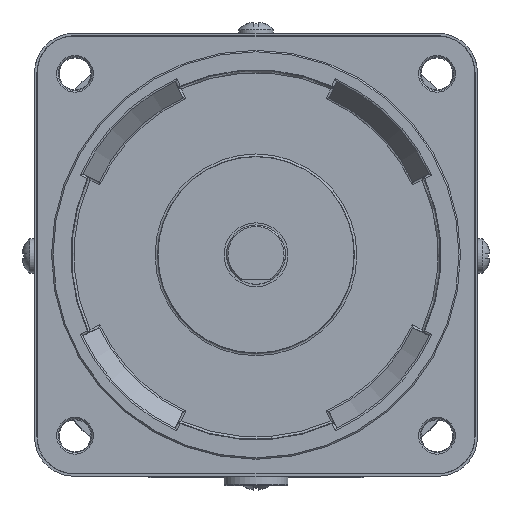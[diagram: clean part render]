
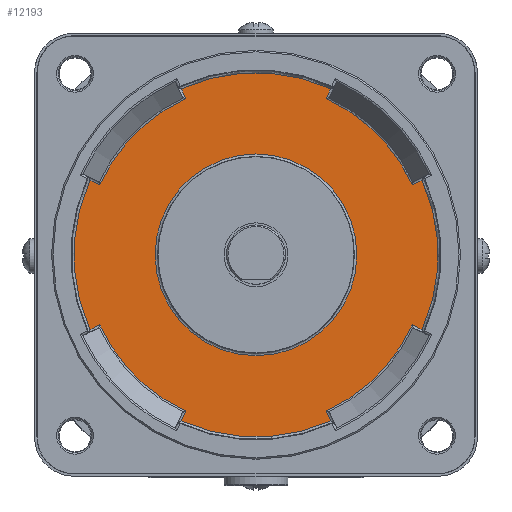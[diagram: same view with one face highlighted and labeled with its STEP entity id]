
A CAD part, top view. The second image highlights one B-rep face of the part: STEP entity #12193.
In plain terms, the highlighted planar face has unit normal (0, 0, 1).
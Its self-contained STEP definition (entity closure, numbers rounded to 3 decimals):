
#8 = DIRECTION ( 'NONE',  ( 0., 0., 1. ) ) ;
#231 = VERTEX_POINT ( 'NONE', #5247 ) ;
#313 = CARTESIAN_POINT ( 'NONE',  ( -33.753, -15.188, -2.5 ) ) ;
#380 = EDGE_CURVE ( 'NONE', #12236, #7344, #490, .T. ) ;
#385 = ORIENTED_EDGE ( 'NONE', *, *, #4641, .T. ) ;
#388 = VECTOR ( 'NONE', #6563, 1000. ) ;
#490 = LINE ( 'NONE', #6357, #388 ) ;
#516 = DIRECTION ( 'NONE',  ( -0.906, 0.423, 0. ) ) ;
#593 = DIRECTION ( 'NONE',  ( 1., 0., 0. ) ) ;
#696 = FACE_OUTER_BOUND ( 'NONE', #8494, .T. ) ;
#700 = VERTEX_POINT ( 'NONE', #4110 ) ;
#810 = ORIENTED_EDGE ( 'NONE', *, *, #3747, .T. ) ;
#873 = ORIENTED_EDGE ( 'NONE', *, *, #6454, .T. ) ;
#910 = CARTESIAN_POINT ( 'NONE',  ( -14.242, 31.725, -2.5 ) ) ;
#935 = CARTESIAN_POINT ( 'NONE',  ( 0., 0., -2.5 ) ) ;
#952 = DIRECTION ( 'NONE',  ( 1., 0., 0. ) ) ;
#1113 = CIRCLE ( 'NONE', #10386, 20.491 ) ;
#1242 = CARTESIAN_POINT ( 'NONE',  ( 0., 0., -2.5 ) ) ;
#1409 = ORIENTED_EDGE ( 'NONE', *, *, #5011, .T. ) ;
#1417 = CARTESIAN_POINT ( 'NONE',  ( -0.453, 0.211, -2.5 ) ) ;
#1424 = VECTOR ( 'NONE', #12307, 1000. ) ;
#1473 = VERTEX_POINT ( 'NONE', #313 ) ;
#1562 = LINE ( 'NONE', #1417, #3762 ) ;
#1624 = DIRECTION ( 'NONE',  ( 0.906, -0.423, 0. ) ) ;
#1697 = PLANE ( 'NONE',  #6767 ) ;
#1743 = ORIENTED_EDGE ( 'NONE', *, *, #9905, .T. ) ;
#1972 = VECTOR ( 'NONE', #1624, 1000. ) ;
#2042 = AXIS2_PLACEMENT_3D ( 'NONE', #4200, #5190, #3417 ) ;
#2053 = ORIENTED_EDGE ( 'NONE', *, *, #5500, .T. ) ;
#2141 = VECTOR ( 'NONE', #3409, 1000. ) ;
#2276 = CARTESIAN_POINT ( 'NONE',  ( 14.338, -31.932, -2.5 ) ) ;
#2347 = LINE ( 'NONE', #2276, #1424 ) ;
#2522 = CARTESIAN_POINT ( 'NONE',  ( 15.188, -33.753, -2.5 ) ) ;
#2598 = ORIENTED_EDGE ( 'NONE', *, *, #7888, .T. ) ;
#2784 = CIRCLE ( 'NONE', #9494, 34.775 ) ;
#2919 = ORIENTED_EDGE ( 'NONE', *, *, #11786, .T. ) ;
#2949 = CARTESIAN_POINT ( 'NONE',  ( -14.242, -31.725, -2.5 ) ) ;
#2970 = AXIS2_PLACEMENT_3D ( 'NONE', #10817, #4687, #4813 ) ;
#3077 = EDGE_CURVE ( 'NONE', #3751, #6513, #2347, .T. ) ;
#3265 = DIRECTION ( 'NONE',  ( 0., 0., 1. ) ) ;
#3295 = CARTESIAN_POINT ( 'NONE',  ( 33.753, -15.188, -2.5 ) ) ;
#3300 = EDGE_CURVE ( 'NONE', #11493, #10635, #1562, .T. ) ;
#3409 = DIRECTION ( 'NONE',  ( -0.906, -0.423, 0. ) ) ;
#3417 = DIRECTION ( 'NONE',  ( 1., 0., 0. ) ) ;
#3500 = VERTEX_POINT ( 'NONE', #7251 ) ;
#3515 = AXIS2_PLACEMENT_3D ( 'NONE', #9989, #12900, #952 ) ;
#3573 = AXIS2_PLACEMENT_3D ( 'NONE', #1242, #4342, #7435 ) ;
#3616 = FACE_BOUND ( 'NONE', #11648, .T. ) ;
#3664 = ORIENTED_EDGE ( 'NONE', *, *, #3077, .T. ) ;
#3704 = ORIENTED_EDGE ( 'NONE', *, *, #12410, .T. ) ;
#3747 = EDGE_CURVE ( 'NONE', #10635, #10846, #12817, .T. ) ;
#3751 = VERTEX_POINT ( 'NONE', #2522 ) ;
#3762 = VECTOR ( 'NONE', #12441, 1000. ) ;
#3818 = CARTESIAN_POINT ( 'NONE',  ( -14.338, 31.932, -2.5 ) ) ;
#3950 = EDGE_CURVE ( 'NONE', #12003, #6336, #5237, .T. ) ;
#4110 = CARTESIAN_POINT ( 'NONE',  ( -31.725, -14.242, -2.5 ) ) ;
#4133 = VERTEX_POINT ( 'NONE', #11816 ) ;
#4135 = CIRCLE ( 'NONE', #3515, 34.775 ) ;
#4200 = CARTESIAN_POINT ( 'NONE',  ( 0., 0., -2.5 ) ) ;
#4265 = VERTEX_POINT ( 'NONE', #8020 ) ;
#4342 = DIRECTION ( 'NONE',  ( 0., 0., 1. ) ) ;
#4532 = CARTESIAN_POINT ( 'NONE',  ( 14.242, -31.725, -2.5 ) ) ;
#4580 = CARTESIAN_POINT ( 'NONE',  ( 33.753, 15.188, -2.5 ) ) ;
#4602 = CARTESIAN_POINT ( 'NONE',  ( 0., 0., -2.5 ) ) ;
#4641 = EDGE_CURVE ( 'NONE', #700, #12236, #4135, .T. ) ;
#4687 = DIRECTION ( 'NONE',  ( 0., 0., 1. ) ) ;
#4813 = DIRECTION ( 'NONE',  ( 1., 0., 0. ) ) ;
#4855 = CARTESIAN_POINT ( 'NONE',  ( 0., 0., -2.5 ) ) ;
#5011 = EDGE_CURVE ( 'NONE', #3500, #11493, #9631, .T. ) ;
#5135 = EDGE_CURVE ( 'NONE', #4265, #1473, #8356, .T. ) ;
#5190 = DIRECTION ( 'NONE',  ( 0., 0., 1. ) ) ;
#5226 = ORIENTED_EDGE ( 'NONE', *, *, #5135, .T. ) ;
#5237 = CIRCLE ( 'NONE', #3573, 34.775 ) ;
#5247 = CARTESIAN_POINT ( 'NONE',  ( 20.491, 0., -2.5 ) ) ;
#5375 = ORIENTED_EDGE ( 'NONE', *, *, #3950, .T. ) ;
#5478 = LINE ( 'NONE', #6318, #9197 ) ;
#5500 = EDGE_CURVE ( 'NONE', #7210, #12560, #10266, .T. ) ;
#5513 = LINE ( 'NONE', #6565, #2141 ) ;
#5774 = ORIENTED_EDGE ( 'NONE', *, *, #3300, .T. ) ;
#5916 = ORIENTED_EDGE ( 'NONE', *, *, #9596, .T. ) ;
#5965 = DIRECTION ( 'NONE',  ( 1., 0., 0. ) ) ;
#6183 = CARTESIAN_POINT ( 'NONE',  ( 14.242, 31.725, -2.5 ) ) ;
#6318 = CARTESIAN_POINT ( 'NONE',  ( -0.211, -0.453, -2.5 ) ) ;
#6336 = VERTEX_POINT ( 'NONE', #10190 ) ;
#6357 = CARTESIAN_POINT ( 'NONE',  ( 0.453, -0.211, -2.5 ) ) ;
#6454 = EDGE_CURVE ( 'NONE', #12560, #3500, #5513, .T. ) ;
#6513 = VERTEX_POINT ( 'NONE', #4532 ) ;
#6534 = DIRECTION ( 'NONE',  ( 0., 0., 1. ) ) ;
#6563 = DIRECTION ( 'NONE',  ( -0.423, -0.906, 0. ) ) ;
#6565 = CARTESIAN_POINT ( 'NONE',  ( 31.932, 14.338, -2.5 ) ) ;
#6767 = AXIS2_PLACEMENT_3D ( 'NONE', #4602, #8621, #11663 ) ;
#6809 = DIRECTION ( 'NONE',  ( 0.906, 0.423, 0. ) ) ;
#7113 = AXIS2_PLACEMENT_3D ( 'NONE', #8581, #6534, #593 ) ;
#7210 = VERTEX_POINT ( 'NONE', #3295 ) ;
#7251 = CARTESIAN_POINT ( 'NONE',  ( 31.725, 14.242, -2.5 ) ) ;
#7344 = VERTEX_POINT ( 'NONE', #12460 ) ;
#7435 = DIRECTION ( 'NONE',  ( 1., 0., 0. ) ) ;
#7476 = CARTESIAN_POINT ( 'NONE',  ( 0.211, 0.453, -2.5 ) ) ;
#7820 = DIRECTION ( 'NONE',  ( 0.423, -0.906, 0. ) ) ;
#7888 = EDGE_CURVE ( 'NONE', #231, #231, #1113, .T. ) ;
#8020 = CARTESIAN_POINT ( 'NONE',  ( -33.753, 15.188, -2.5 ) ) ;
#8319 = VECTOR ( 'NONE', #7820, 1000. ) ;
#8356 = CIRCLE ( 'NONE', #11745, 37.013 ) ;
#8405 = DIRECTION ( 'NONE',  ( 1., 0., 0. ) ) ;
#8494 = EDGE_LOOP ( 'NONE', ( #5916, #2053, #873, #1409, #5774, #810, #11619, #5375, #12952, #5226, #1743, #385, #10604, #2919, #3664, #3704 ) ) ;
#8581 = CARTESIAN_POINT ( 'NONE',  ( 0., 0., -2.5 ) ) ;
#8621 = DIRECTION ( 'NONE',  ( 0., 0., 1. ) ) ;
#8663 = LINE ( 'NONE', #11957, #11245 ) ;
#8907 = EDGE_CURVE ( 'NONE', #10846, #12003, #9807, .T. ) ;
#8984 = DIRECTION ( 'NONE',  ( 0., 0., 1. ) ) ;
#9197 = VECTOR ( 'NONE', #516, 1000. ) ;
#9239 = CARTESIAN_POINT ( 'NONE',  ( 0., 0., -2.5 ) ) ;
#9268 = CIRCLE ( 'NONE', #2970, 37.013 ) ;
#9288 = CARTESIAN_POINT ( 'NONE',  ( 15.188, 33.753, -2.5 ) ) ;
#9494 = AXIS2_PLACEMENT_3D ( 'NONE', #12361, #3265, #8405 ) ;
#9596 = EDGE_CURVE ( 'NONE', #4133, #7210, #10594, .T. ) ;
#9631 = CIRCLE ( 'NONE', #12582, 34.775 ) ;
#9804 = DIRECTION ( 'NONE',  ( 0., 0., -1. ) ) ;
#9807 = LINE ( 'NONE', #3818, #8319 ) ;
#9885 = CARTESIAN_POINT ( 'NONE',  ( -15.188, 33.753, -2.5 ) ) ;
#9905 = EDGE_CURVE ( 'NONE', #1473, #700, #8663, .T. ) ;
#9989 = CARTESIAN_POINT ( 'NONE',  ( 0., 0., -2.5 ) ) ;
#10190 = CARTESIAN_POINT ( 'NONE',  ( -31.725, 14.242, -2.5 ) ) ;
#10266 = CIRCLE ( 'NONE', #2042, 37.013 ) ;
#10386 = AXIS2_PLACEMENT_3D ( 'NONE', #4855, #9804, #5965 ) ;
#10594 = LINE ( 'NONE', #7476, #1972 ) ;
#10604 = ORIENTED_EDGE ( 'NONE', *, *, #380, .T. ) ;
#10635 = VERTEX_POINT ( 'NONE', #9288 ) ;
#10817 = CARTESIAN_POINT ( 'NONE',  ( 0., 0., -2.5 ) ) ;
#10846 = VERTEX_POINT ( 'NONE', #9885 ) ;
#11245 = VECTOR ( 'NONE', #6809, 1000. ) ;
#11493 = VERTEX_POINT ( 'NONE', #6183 ) ;
#11619 = ORIENTED_EDGE ( 'NONE', *, *, #8907, .T. ) ;
#11648 = EDGE_LOOP ( 'NONE', ( #2598 ) ) ;
#11663 = DIRECTION ( 'NONE',  ( 1., 0., 0. ) ) ;
#11745 = AXIS2_PLACEMENT_3D ( 'NONE', #9239, #8, #12146 ) ;
#11786 = EDGE_CURVE ( 'NONE', #7344, #3751, #9268, .T. ) ;
#11816 = CARTESIAN_POINT ( 'NONE',  ( 31.725, -14.242, -2.5 ) ) ;
#11957 = CARTESIAN_POINT ( 'NONE',  ( -31.932, -14.338, -2.5 ) ) ;
#12003 = VERTEX_POINT ( 'NONE', #910 ) ;
#12146 = DIRECTION ( 'NONE',  ( 1., 0., 0. ) ) ;
#12193 = ADVANCED_FACE ( 'NONE', ( #696, #3616 ), #1697, .T. ) ;
#12236 = VERTEX_POINT ( 'NONE', #2949 ) ;
#12307 = DIRECTION ( 'NONE',  ( -0.423, 0.906, 0. ) ) ;
#12361 = CARTESIAN_POINT ( 'NONE',  ( 0., 0., -2.5 ) ) ;
#12410 = EDGE_CURVE ( 'NONE', #6513, #4133, #2784, .T. ) ;
#12441 = DIRECTION ( 'NONE',  ( 0.423, 0.906, 0. ) ) ;
#12460 = CARTESIAN_POINT ( 'NONE',  ( -15.188, -33.753, -2.5 ) ) ;
#12560 = VERTEX_POINT ( 'NONE', #4580 ) ;
#12582 = AXIS2_PLACEMENT_3D ( 'NONE', #935, #8984, #13004 ) ;
#12767 = EDGE_CURVE ( 'NONE', #6336, #4265, #5478, .T. ) ;
#12817 = CIRCLE ( 'NONE', #7113, 37.013 ) ;
#12900 = DIRECTION ( 'NONE',  ( 0., 0., 1. ) ) ;
#12952 = ORIENTED_EDGE ( 'NONE', *, *, #12767, .T. ) ;
#13004 = DIRECTION ( 'NONE',  ( 1., 0., 0. ) ) ;
